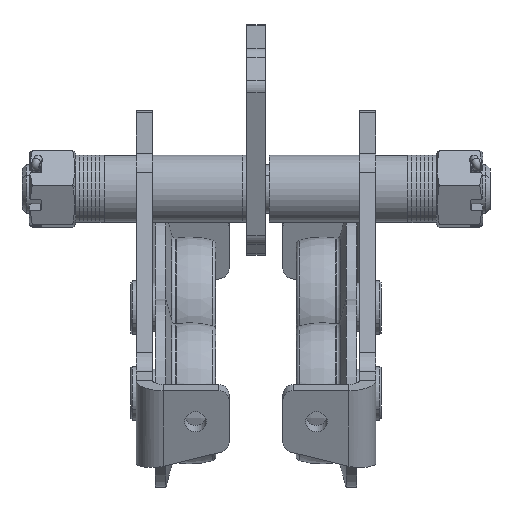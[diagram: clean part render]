
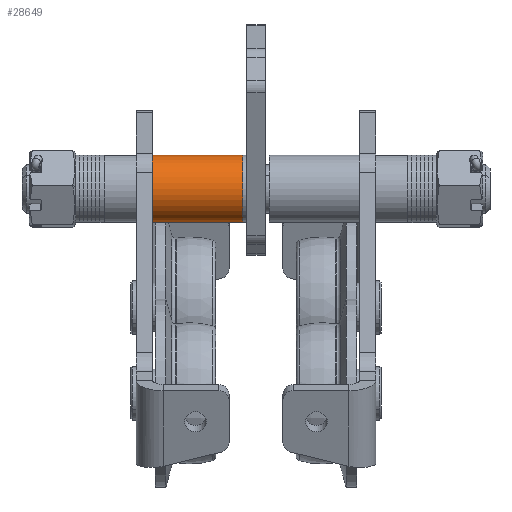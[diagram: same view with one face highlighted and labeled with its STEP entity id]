
A CAD part, front view. The second image highlights one B-rep face of the part: STEP entity #28649.
In plain terms, the highlighted cylindrical face has radius 25 mm (diameter 50 mm), a partial arc.
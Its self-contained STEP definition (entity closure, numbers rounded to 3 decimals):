
#1603 = CYLINDRICAL_SURFACE ( 'NONE', #29416, 25. ) ;
#1870 = VERTEX_POINT ( 'NONE', #14947 ) ;
#2076 = VECTOR ( 'NONE', #31213, 1000. ) ;
#2688 = VERTEX_POINT ( 'NONE', #12939 ) ;
#2776 = EDGE_CURVE ( 'NONE', #18741, #2688, #14265, .T. ) ;
#3748 = ORIENTED_EDGE ( 'NONE', *, *, #30893, .F. ) ;
#4193 = DIRECTION ( 'NONE',  ( -1., 0., 0. ) ) ;
#4238 = DIRECTION ( 'NONE',  ( 0., 0., 1. ) ) ;
#5588 = DIRECTION ( 'NONE',  ( -1., 0., 0. ) ) ;
#6189 = DIRECTION ( 'NONE',  ( -1., 0., 0. ) ) ;
#7122 = CIRCLE ( 'NONE', #17553, 25. ) ;
#7695 = CARTESIAN_POINT ( 'NONE',  ( -34.345, 111.539, 292.034 ) ) ;
#8922 = LINE ( 'NONE', #16438, #21763 ) ;
#10187 = ORIENTED_EDGE ( 'NONE', *, *, #2776, .T. ) ;
#11172 = EDGE_CURVE ( 'NONE', #18741, #1870, #13658, .T. ) ;
#12102 = DIRECTION ( 'NONE',  ( 0., 0., 1. ) ) ;
#12939 = CARTESIAN_POINT ( 'NONE',  ( -34.345, 111.539, 317.034 ) ) ;
#13658 = LINE ( 'NONE', #20682, #2076 ) ;
#14226 = FACE_OUTER_BOUND ( 'NONE', #26808, .T. ) ;
#14265 = CIRCLE ( 'NONE', #31045, 25. ) ;
#14947 = CARTESIAN_POINT ( 'NONE',  ( -101.345, 111.539, 267.034 ) ) ;
#16438 = CARTESIAN_POINT ( 'NONE',  ( -117.309, 111.539, 317.034 ) ) ;
#17553 = AXIS2_PLACEMENT_3D ( 'NONE', #23976, #6189, #4238 ) ;
#18741 = VERTEX_POINT ( 'NONE', #19410 ) ;
#19410 = CARTESIAN_POINT ( 'NONE',  ( -34.345, 111.539, 267.034 ) ) ;
#20682 = CARTESIAN_POINT ( 'NONE',  ( -117.309, 111.539, 267.034 ) ) ;
#21763 = VECTOR ( 'NONE', #4193, 1000. ) ;
#22007 = ORIENTED_EDGE ( 'NONE', *, *, #31105, .T. ) ;
#22376 = DIRECTION ( 'NONE',  ( -1., 0., 0. ) ) ;
#22736 = DIRECTION ( 'NONE',  ( 0., 0., 1. ) ) ;
#22835 = VERTEX_POINT ( 'NONE', #26449 ) ;
#23976 = CARTESIAN_POINT ( 'NONE',  ( -101.345, 111.539, 292.034 ) ) ;
#26449 = CARTESIAN_POINT ( 'NONE',  ( -101.345, 111.539, 317.034 ) ) ;
#26507 = ORIENTED_EDGE ( 'NONE', *, *, #11172, .F. ) ;
#26808 = EDGE_LOOP ( 'NONE', ( #26507, #10187, #22007, #3748 ) ) ;
#28649 = ADVANCED_FACE ( 'NONE', ( #14226 ), #1603, .T. ) ;
#29416 = AXIS2_PLACEMENT_3D ( 'NONE', #29971, #22376, #12102 ) ;
#29971 = CARTESIAN_POINT ( 'NONE',  ( -117.309, 111.539, 292.034 ) ) ;
#30893 = EDGE_CURVE ( 'NONE', #1870, #22835, #7122, .T. ) ;
#31045 = AXIS2_PLACEMENT_3D ( 'NONE', #7695, #5588, #22736 ) ;
#31105 = EDGE_CURVE ( 'NONE', #2688, #22835, #8922, .T. ) ;
#31213 = DIRECTION ( 'NONE',  ( -1., 0., 0. ) ) ;
